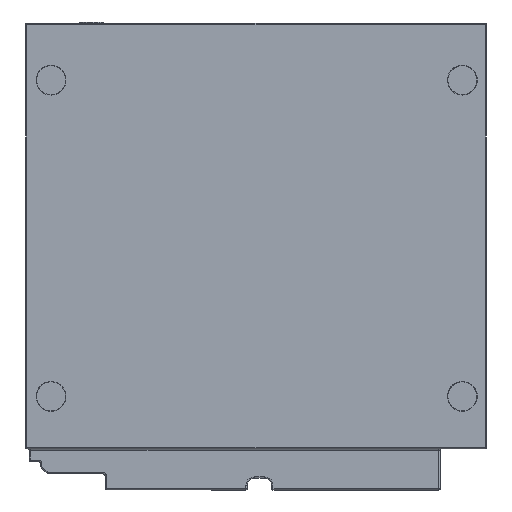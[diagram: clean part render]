
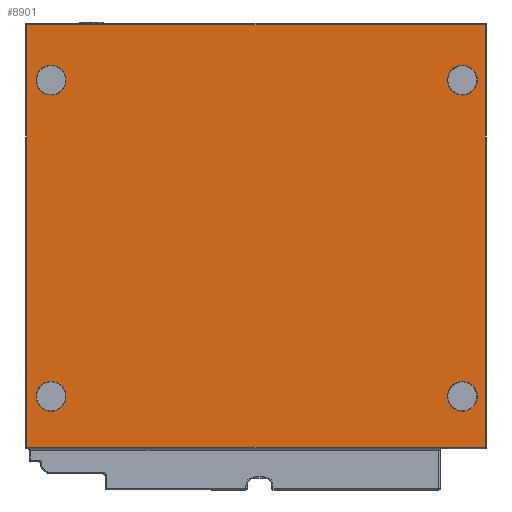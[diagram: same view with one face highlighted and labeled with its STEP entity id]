
A CAD part, front view. The second image highlights one B-rep face of the part: STEP entity #8901.
In plain terms, the highlighted planar face has unit normal (0, -1, 0).
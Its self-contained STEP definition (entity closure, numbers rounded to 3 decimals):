
#60 = CARTESIAN_POINT ( 'NONE',  ( 308., 5., -273.5 ) ) ;
#128 = EDGE_LOOP ( 'NONE', ( #9807, #8252, #2801, #3039 ) ) ;
#445 = FACE_BOUND ( 'NONE', #11146, .T. ) ;
#607 = AXIS2_PLACEMENT_3D ( 'NONE', #2218, #8359, #3101 ) ;
#770 = CARTESIAN_POINT ( 'NONE',  ( 308., 5., -40. ) ) ;
#865 = EDGE_CURVE ( 'NONE', #3433, #4908, #3792, .T. ) ;
#990 = LINE ( 'NONE', #4093, #10054 ) ;
#1059 = DIRECTION ( 'NONE',  ( 0., 0., 1. ) ) ;
#1060 = LINE ( 'NONE', #3174, #10136 ) ;
#1082 = DIRECTION ( 'NONE',  ( 0., -1., 0. ) ) ;
#1365 = EDGE_CURVE ( 'NONE', #8153, #7976, #8691, .T. ) ;
#1406 = CARTESIAN_POINT ( 'NONE',  ( 308., 5., -263. ) ) ;
#1550 = DIRECTION ( 'NONE',  ( 0., 1., 0. ) ) ;
#1612 = CIRCLE ( 'NONE', #5486, 10.5 ) ;
#1654 = DIRECTION ( 'NONE',  ( 0., 0., 1. ) ) ;
#1692 = CARTESIAN_POINT ( 'NONE',  ( 1., 5., -299. ) ) ;
#1756 = CARTESIAN_POINT ( 'NONE',  ( 308., 5., -263. ) ) ;
#1862 = LINE ( 'NONE', #9586, #3906 ) ;
#1959 = ORIENTED_EDGE ( 'NONE', *, *, #7657, .F. ) ;
#2024 = ORIENTED_EDGE ( 'NONE', *, *, #1365, .F. ) ;
#2218 = CARTESIAN_POINT ( 'NONE',  ( 308., 5., -40. ) ) ;
#2497 = FACE_BOUND ( 'NONE', #5385, .T. ) ;
#2578 = CARTESIAN_POINT ( 'NONE',  ( 18., 5., -263. ) ) ;
#2603 = AXIS2_PLACEMENT_3D ( 'NONE', #10176, #10124, #10507 ) ;
#2618 = VERTEX_POINT ( 'NONE', #3405 ) ;
#2644 = DIRECTION ( 'NONE',  ( 0., 0., 1. ) ) ;
#2801 = ORIENTED_EDGE ( 'NONE', *, *, #6682, .T. ) ;
#2872 = VERTEX_POINT ( 'NONE', #6469 ) ;
#2917 = VERTEX_POINT ( 'NONE', #10057 ) ;
#3033 = AXIS2_PLACEMENT_3D ( 'NONE', #1406, #1082, #1059 ) ;
#3039 = ORIENTED_EDGE ( 'NONE', *, *, #8869, .T. ) ;
#3083 = VECTOR ( 'NONE', #3140, 1000. ) ;
#3101 = DIRECTION ( 'NONE',  ( 0., 0., 1. ) ) ;
#3140 = DIRECTION ( 'NONE',  ( 0., 0., -1. ) ) ;
#3174 = CARTESIAN_POINT ( 'NONE',  ( 325., 5., -299. ) ) ;
#3247 = VERTEX_POINT ( 'NONE', #8775 ) ;
#3288 = CARTESIAN_POINT ( 'NONE',  ( 18., 5., -273.5 ) ) ;
#3353 = LINE ( 'NONE', #10189, #3083 ) ;
#3405 = CARTESIAN_POINT ( 'NONE',  ( 18., 5., -252.5 ) ) ;
#3433 = VERTEX_POINT ( 'NONE', #5529 ) ;
#3436 = CARTESIAN_POINT ( 'NONE',  ( 308., 5., -50.5 ) ) ;
#3437 = DIRECTION ( 'NONE',  ( 0., 0., 1. ) ) ;
#3444 = CARTESIAN_POINT ( 'NONE',  ( 18., 5., -40. ) ) ;
#3792 = CIRCLE ( 'NONE', #3033, 10.5 ) ;
#3906 = VECTOR ( 'NONE', #4302, 1000. ) ;
#4093 = CARTESIAN_POINT ( 'NONE',  ( 0., 5., -1. ) ) ;
#4133 = PLANE ( 'NONE',  #4201 ) ;
#4186 = EDGE_LOOP ( 'NONE', ( #10000, #4618 ) ) ;
#4201 = AXIS2_PLACEMENT_3D ( 'NONE', #6787, #1550, #7681 ) ;
#4283 = ORIENTED_EDGE ( 'NONE', *, *, #5428, .F. ) ;
#4302 = DIRECTION ( 'NONE',  ( 0., 0., 1. ) ) ;
#4319 = EDGE_CURVE ( 'NONE', #2618, #4748, #5454, .T. ) ;
#4331 = DIRECTION ( 'NONE',  ( 0., 0., 1. ) ) ;
#4618 = ORIENTED_EDGE ( 'NONE', *, *, #865, .F. ) ;
#4748 = VERTEX_POINT ( 'NONE', #3288 ) ;
#4813 = AXIS2_PLACEMENT_3D ( 'NONE', #1756, #7898, #2644 ) ;
#4820 = FACE_OUTER_BOUND ( 'NONE', #128, .T. ) ;
#4833 = EDGE_CURVE ( 'NONE', #4748, #2618, #9021, .T. ) ;
#4908 = VERTEX_POINT ( 'NONE', #60 ) ;
#4949 = DIRECTION ( 'NONE',  ( 1., 0., 0. ) ) ;
#5143 = CARTESIAN_POINT ( 'NONE',  ( 18., 5., -263. ) ) ;
#5248 = AXIS2_PLACEMENT_3D ( 'NONE', #5143, #11307, #6020 ) ;
#5385 = EDGE_LOOP ( 'NONE', ( #4283, #2024 ) ) ;
#5418 = VERTEX_POINT ( 'NONE', #1692 ) ;
#5428 = EDGE_CURVE ( 'NONE', #7976, #8153, #1612, .T. ) ;
#5454 = CIRCLE ( 'NONE', #5248, 10.5 ) ;
#5486 = AXIS2_PLACEMENT_3D ( 'NONE', #3444, #9615, #4331 ) ;
#5529 = CARTESIAN_POINT ( 'NONE',  ( 308., 5., -252.5 ) ) ;
#5730 = AXIS2_PLACEMENT_3D ( 'NONE', #770, #6892, #1654 ) ;
#5994 = AXIS2_PLACEMENT_3D ( 'NONE', #2578, #8709, #3437 ) ;
#6020 = DIRECTION ( 'NONE',  ( 0., 0., 1. ) ) ;
#6155 = CARTESIAN_POINT ( 'NONE',  ( 18., 5., -50.5 ) ) ;
#6469 = CARTESIAN_POINT ( 'NONE',  ( 324., 5., -1. ) ) ;
#6682 = EDGE_CURVE ( 'NONE', #7232, #2872, #1862, .T. ) ;
#6787 = CARTESIAN_POINT ( 'NONE',  ( 0., 5., -329. ) ) ;
#6892 = DIRECTION ( 'NONE',  ( 0., -1., 0. ) ) ;
#7113 = EDGE_CURVE ( 'NONE', #2917, #5418, #3353, .T. ) ;
#7153 = FACE_BOUND ( 'NONE', #9821, .T. ) ;
#7232 = VERTEX_POINT ( 'NONE', #10384 ) ;
#7261 = EDGE_CURVE ( 'NONE', #10418, #3247, #8711, .T. ) ;
#7591 = DIRECTION ( 'NONE',  ( -1., 0., 0. ) ) ;
#7657 = EDGE_CURVE ( 'NONE', #3247, #10418, #11329, .T. ) ;
#7681 = DIRECTION ( 'NONE',  ( 0., 0., 1. ) ) ;
#7708 = FACE_BOUND ( 'NONE', #4186, .T. ) ;
#7898 = DIRECTION ( 'NONE',  ( 0., -1., 0. ) ) ;
#7976 = VERTEX_POINT ( 'NONE', #6155 ) ;
#8153 = VERTEX_POINT ( 'NONE', #9161 ) ;
#8252 = ORIENTED_EDGE ( 'NONE', *, *, #10225, .T. ) ;
#8359 = DIRECTION ( 'NONE',  ( 0., -1., 0. ) ) ;
#8606 = ORIENTED_EDGE ( 'NONE', *, *, #7261, .F. ) ;
#8691 = CIRCLE ( 'NONE', #2603, 10.5 ) ;
#8709 = DIRECTION ( 'NONE',  ( 0., -1., 0. ) ) ;
#8711 = CIRCLE ( 'NONE', #5730, 10.5 ) ;
#8775 = CARTESIAN_POINT ( 'NONE',  ( 308., 5., -29.5 ) ) ;
#8869 = EDGE_CURVE ( 'NONE', #2872, #2917, #990, .T. ) ;
#8901 = ADVANCED_FACE ( 'NONE', ( #4820, #445, #7708, #7153, #2497 ), #4133, .F. ) ;
#9021 = CIRCLE ( 'NONE', #5994, 10.5 ) ;
#9161 = CARTESIAN_POINT ( 'NONE',  ( 18., 5., -29.5 ) ) ;
#9539 = ORIENTED_EDGE ( 'NONE', *, *, #4319, .F. ) ;
#9586 = CARTESIAN_POINT ( 'NONE',  ( 324., 5., 0. ) ) ;
#9615 = DIRECTION ( 'NONE',  ( 0., -1., 0. ) ) ;
#9807 = ORIENTED_EDGE ( 'NONE', *, *, #7113, .T. ) ;
#9821 = EDGE_LOOP ( 'NONE', ( #8606, #1959 ) ) ;
#10000 = ORIENTED_EDGE ( 'NONE', *, *, #10891, .F. ) ;
#10054 = VECTOR ( 'NONE', #7591, 1000. ) ;
#10057 = CARTESIAN_POINT ( 'NONE',  ( 1., 5., -1. ) ) ;
#10124 = DIRECTION ( 'NONE',  ( 0., -1., 0. ) ) ;
#10136 = VECTOR ( 'NONE', #4949, 1000. ) ;
#10176 = CARTESIAN_POINT ( 'NONE',  ( 18., 5., -40. ) ) ;
#10189 = CARTESIAN_POINT ( 'NONE',  ( 1., 5., -300. ) ) ;
#10225 = EDGE_CURVE ( 'NONE', #5418, #7232, #1060, .T. ) ;
#10384 = CARTESIAN_POINT ( 'NONE',  ( 324., 5., -299. ) ) ;
#10418 = VERTEX_POINT ( 'NONE', #3436 ) ;
#10497 = ORIENTED_EDGE ( 'NONE', *, *, #4833, .F. ) ;
#10507 = DIRECTION ( 'NONE',  ( 0., 0., 1. ) ) ;
#10675 = CIRCLE ( 'NONE', #4813, 10.5 ) ;
#10891 = EDGE_CURVE ( 'NONE', #4908, #3433, #10675, .T. ) ;
#11146 = EDGE_LOOP ( 'NONE', ( #10497, #9539 ) ) ;
#11307 = DIRECTION ( 'NONE',  ( 0., -1., 0. ) ) ;
#11329 = CIRCLE ( 'NONE', #607, 10.5 ) ;
